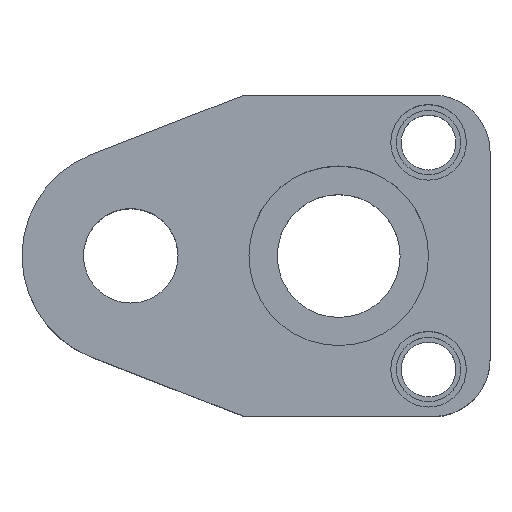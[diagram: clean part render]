
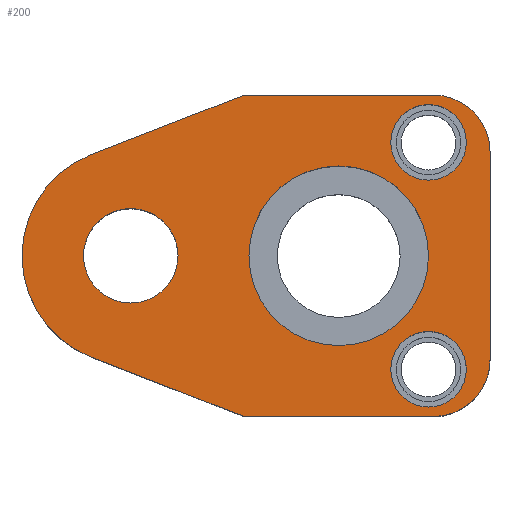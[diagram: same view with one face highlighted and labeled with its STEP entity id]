
A CAD part, top view. The second image highlights one B-rep face of the part: STEP entity #200.
In plain terms, the highlighted planar face has unit normal (0, 0, 1).
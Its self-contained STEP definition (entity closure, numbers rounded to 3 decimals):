
#106=FACE_BOUND('',#285,.T.);
#107=FACE_BOUND('',#286,.T.);
#108=FACE_BOUND('',#287,.T.);
#109=FACE_BOUND('',#288,.T.);
#110=FACE_BOUND('',#289,.T.);
#140=CIRCLE('',#746,6.);
#142=CIRCLE('',#750,6.);
#145=CIRCLE('',#756,11.5);
#154=CIRCLE('',#771,9.5);
#156=CIRCLE('',#774,9.5);
#158=CIRCLE('',#778,4.);
#159=CIRCLE('',#779,4.);
#160=CIRCLE('',#780,4.);
#161=CIRCLE('',#781,4.);
#162=CIRCLE('',#782,5.);
#163=CIRCLE('',#783,5.);
#200=ADVANCED_FACE('',(#106,#107,#108,#109,#110),#230,.T.);
#230=PLANE('',#784);
#285=EDGE_LOOP('',(#393,#394,#395,#396,#397,#398,#399,#400));
#286=EDGE_LOOP('',(#401,#402));
#287=EDGE_LOOP('',(#403,#404));
#288=EDGE_LOOP('',(#405,#406));
#289=EDGE_LOOP('',(#407,#408));
#393=ORIENTED_EDGE('',*,*,#579,.T.);
#394=ORIENTED_EDGE('',*,*,#561,.T.);
#395=ORIENTED_EDGE('',*,*,#565,.T.);
#396=ORIENTED_EDGE('',*,*,#568,.T.);
#397=ORIENTED_EDGE('',*,*,#571,.T.);
#398=ORIENTED_EDGE('',*,*,#574,.T.);
#399=ORIENTED_EDGE('',*,*,#586,.T.);
#400=ORIENTED_EDGE('',*,*,#582,.T.);
#401=ORIENTED_EDGE('',*,*,#609,.F.);
#402=ORIENTED_EDGE('',*,*,#610,.F.);
#403=ORIENTED_EDGE('',*,*,#611,.F.);
#404=ORIENTED_EDGE('',*,*,#612,.F.);
#405=ORIENTED_EDGE('',*,*,#607,.F.);
#406=ORIENTED_EDGE('',*,*,#603,.F.);
#407=ORIENTED_EDGE('',*,*,#613,.T.);
#408=ORIENTED_EDGE('',*,*,#614,.T.);
#500=VERTEX_POINT('',#1042);
#501=VERTEX_POINT('',#1044);
#504=VERTEX_POINT('',#1051);
#506=VERTEX_POINT('',#1057);
#508=VERTEX_POINT('',#1063);
#510=VERTEX_POINT('',#1069);
#514=VERTEX_POINT('',#1080);
#516=VERTEX_POINT('',#1086);
#530=VERTEX_POINT('',#1132);
#531=VERTEX_POINT('',#1133);
#534=VERTEX_POINT('',#1145);
#535=VERTEX_POINT('',#1146);
#536=VERTEX_POINT('',#1149);
#537=VERTEX_POINT('',#1150);
#538=VERTEX_POINT('',#1153);
#539=VERTEX_POINT('',#1154);
#561=EDGE_CURVE('',#501,#500,#653,.T.);
#565=EDGE_CURVE('',#500,#504,#140,.T.);
#568=EDGE_CURVE('',#504,#506,#658,.T.);
#571=EDGE_CURVE('',#506,#508,#142,.T.);
#574=EDGE_CURVE('',#508,#510,#662,.T.);
#579=EDGE_CURVE('',#514,#501,#667,.T.);
#582=EDGE_CURVE('',#516,#514,#145,.T.);
#586=EDGE_CURVE('',#510,#516,#672,.T.);
#603=EDGE_CURVE('',#530,#531,#154,.T.);
#607=EDGE_CURVE('',#531,#530,#156,.T.);
#609=EDGE_CURVE('',#534,#535,#158,.T.);
#610=EDGE_CURVE('',#535,#534,#159,.T.);
#611=EDGE_CURVE('',#536,#537,#160,.T.);
#612=EDGE_CURVE('',#537,#536,#161,.T.);
#613=EDGE_CURVE('',#538,#539,#162,.T.);
#614=EDGE_CURVE('',#539,#538,#163,.T.);
#653=LINE('',#1043,#699);
#658=LINE('',#1058,#704);
#662=LINE('',#1070,#708);
#667=LINE('',#1079,#713);
#672=LINE('',#1093,#718);
#699=VECTOR('',#830,1.);
#704=VECTOR('',#843,1.);
#708=VECTOR('',#855,1.);
#713=VECTOR('',#862,1.);
#718=VECTOR('',#875,1.);
#746=AXIS2_PLACEMENT_3D('',#1052,#836,#837);
#750=AXIS2_PLACEMENT_3D('',#1064,#848,#849);
#756=AXIS2_PLACEMENT_3D('',#1085,#868,#869);
#771=AXIS2_PLACEMENT_3D('',#1131,#909,#910);
#774=AXIS2_PLACEMENT_3D('',#1140,#917,#918);
#778=AXIS2_PLACEMENT_3D('',#1144,#925,#926);
#779=AXIS2_PLACEMENT_3D('',#1147,#927,#928);
#780=AXIS2_PLACEMENT_3D('',#1148,#929,#930);
#781=AXIS2_PLACEMENT_3D('',#1151,#931,#932);
#782=AXIS2_PLACEMENT_3D('',#1152,#933,#934);
#783=AXIS2_PLACEMENT_3D('',#1155,#935,#936);
#784=AXIS2_PLACEMENT_3D('',#1156,#937,#938);
#830=DIRECTION('',(1.,0.,0.));
#836=DIRECTION('',(0.,0.,1.));
#837=DIRECTION('',(-0.707,0.707,0.));
#843=DIRECTION('',(0.,1.,0.));
#848=DIRECTION('',(0.,0.,1.));
#849=DIRECTION('',(-0.707,-0.707,0.));
#855=DIRECTION('',(-1.,0.,0.));
#862=DIRECTION('',(0.932,-0.362,0.));
#868=DIRECTION('',(0.,0.,1.));
#869=DIRECTION('',(1.,0.,0.));
#875=DIRECTION('',(-0.932,-0.362,0.));
#909=DIRECTION('',(0.,0.,1.));
#910=DIRECTION('',(-1.,0.,0.));
#917=DIRECTION('',(0.,0.,1.));
#918=DIRECTION('',(1.,0.,0.));
#925=DIRECTION('',(0.,0.,1.));
#926=DIRECTION('',(1.,0.,0.));
#927=DIRECTION('',(0.,0.,1.));
#928=DIRECTION('',(-1.,0.,0.));
#929=DIRECTION('',(0.,0.,1.));
#930=DIRECTION('',(1.,0.,0.));
#931=DIRECTION('',(0.,0.,1.));
#932=DIRECTION('',(-1.,0.,0.));
#933=DIRECTION('',(0.,0.,-1.));
#934=DIRECTION('',(-1.,0.,0.));
#935=DIRECTION('',(0.,0.,-1.));
#936=DIRECTION('',(1.,0.,0.));
#937=DIRECTION('',(0.,0.,1.));
#938=DIRECTION('',(0.932,-0.362,0.));
#1042=CARTESIAN_POINT('',(32.,-17.,25.));
#1043=CARTESIAN_POINT('',(12.,-17.,25.));
#1044=CARTESIAN_POINT('',(12.,-17.,25.));
#1051=CARTESIAN_POINT('',(38.,-11.,25.));
#1052=CARTESIAN_POINT('',(32.,-11.,25.));
#1057=CARTESIAN_POINT('',(38.,11.,25.));
#1058=CARTESIAN_POINT('',(38.,11.,25.));
#1063=CARTESIAN_POINT('',(32.,17.,25.));
#1064=CARTESIAN_POINT('',(32.,11.,25.));
#1069=CARTESIAN_POINT('',(12.,17.,25.));
#1070=CARTESIAN_POINT('',(12.,17.,25.));
#1079=CARTESIAN_POINT('',(12.,-17.,25.));
#1080=CARTESIAN_POINT('',(-4.165,-10.719,25.));
#1085=CARTESIAN_POINT('',(0.,0.,25.));
#1086=CARTESIAN_POINT('',(-4.165,10.719,25.));
#1093=CARTESIAN_POINT('',(12.,17.,25.));
#1131=CARTESIAN_POINT('',(22.,0.,25.));
#1132=CARTESIAN_POINT('',(22.,-9.5,25.));
#1133=CARTESIAN_POINT('',(22.,9.5,25.));
#1140=CARTESIAN_POINT('',(22.,0.,25.));
#1144=CARTESIAN_POINT('',(31.5,12.,25.));
#1145=CARTESIAN_POINT('',(31.5,16.,25.));
#1146=CARTESIAN_POINT('',(31.5,8.,25.));
#1147=CARTESIAN_POINT('',(31.5,12.,25.));
#1148=CARTESIAN_POINT('',(31.5,-12.,25.));
#1149=CARTESIAN_POINT('',(31.5,-8.,25.));
#1150=CARTESIAN_POINT('',(31.5,-16.,25.));
#1151=CARTESIAN_POINT('',(31.5,-12.,25.));
#1152=CARTESIAN_POINT('',(0.,0.,25.));
#1153=CARTESIAN_POINT('',(0.,5.,25.));
#1154=CARTESIAN_POINT('',(0.,-5.,25.));
#1155=CARTESIAN_POINT('',(0.,0.,25.));
#1156=CARTESIAN_POINT('',(-4.165,-10.719,25.));
